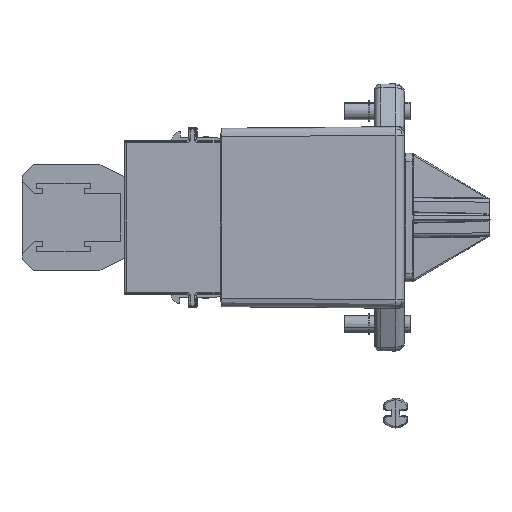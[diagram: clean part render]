
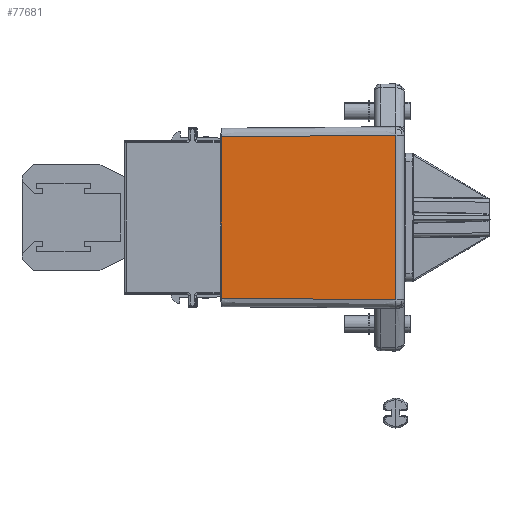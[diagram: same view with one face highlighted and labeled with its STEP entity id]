
A CAD part, front view. The second image highlights one B-rep face of the part: STEP entity #77681.
In plain terms, the highlighted planar face has unit normal (-0.009, -1, 0) as drawn and (0, -1, -0.009) by its records, which use the part's own axes.
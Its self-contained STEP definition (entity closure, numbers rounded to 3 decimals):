
#57226=CARTESIAN_POINT(' ',(18.876,-19.626,-42.9));
#57227=VERTEX_POINT(' ',#57226);
#57241=CARTESIAN_POINT(' ',(18.876,-19.626,-42.9));
#57246=DIRECTION(' ',(-1.,0.,0.));
#57251=VECTOR(' ',#57246,1.);
#57256=LINE('',#57241,#57251);
#57261=CARTESIAN_POINT(' ',(-18.876,-19.626,-42.9));
#57262=VERTEX_POINT(' ',#57261);
#57266=EDGE_CURVE(' ',#57227,#57262,#57256,.T.);
#58626=CARTESIAN_POINT(' ',(-18.876,-19.626,-42.9));
#58631=DIRECTION(' ',(-0.009,-0.009,1.));
#58636=VECTOR(' ',#58631,1.);
#58641=LINE('',#58626,#58636);
#58646=CARTESIAN_POINT(' ',(-19.232,-19.982,-2.017));
#58647=VERTEX_POINT(' ',#58646);
#58651=EDGE_CURVE(' ',#57262,#58647,#58641,.T.);
#68051=CARTESIAN_POINT(' ',(19.232,-19.982,-2.017));
#68056=DIRECTION(' ',(-1.,0.,0.));
#68061=VECTOR(' ',#68056,1.);
#68066=LINE('',#68051,#68061);
#68071=CARTESIAN_POINT(' ',(19.232,-19.982,-2.017));
#68072=VERTEX_POINT(' ',#68071);
#68076=EDGE_CURVE(' ',#68072,#58647,#68066,.T.);
#77576=CARTESIAN_POINT(' ',(19.232,-19.982,-2.017));
#77581=DIRECTION(' ',(-0.009,0.009,-1.));
#77586=VECTOR(' ',#77581,1.);
#77591=LINE('',#77576,#77586);
#77596=EDGE_CURVE(' ',#68072,#57227,#77591,.T.);
#77626=DIRECTION(' ',(0.,-1.,-0.009));
#77631=CARTESIAN_POINT(' ',(-19.232,-19.982,-2.017));
#77636=DIRECTION(' ',(0.,0.009,-1.));
#77641=AXIS2_PLACEMENT_3D(' ',#77631,#77626,#77636);
#77646=PLANE('NONE',#77641);
#77651=ORIENTED_EDGE(' ',*,*,#77596,.F.);
#77656=ORIENTED_EDGE(' ',*,*,#68076,.T.);
#77661=ORIENTED_EDGE(' ',*,*,#58651,.F.);
#77666=ORIENTED_EDGE(' ',*,*,#57266,.F.);
#77671=EDGE_LOOP(' ',(#77651,#77656,#77661,#77666));
#77676=FACE_OUTER_BOUND(' ',#77671,.T.);
#77681=ADVANCED_FACE('NONE',(#77676),#77646,.T.);
